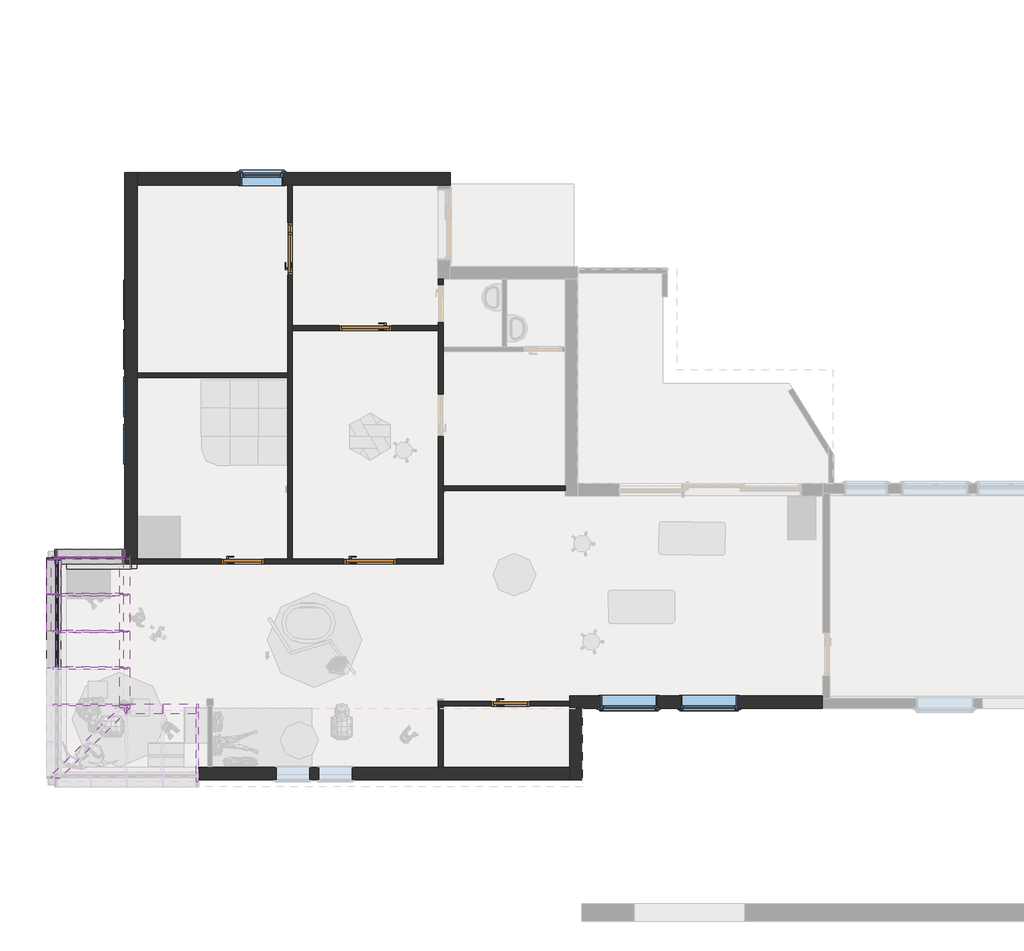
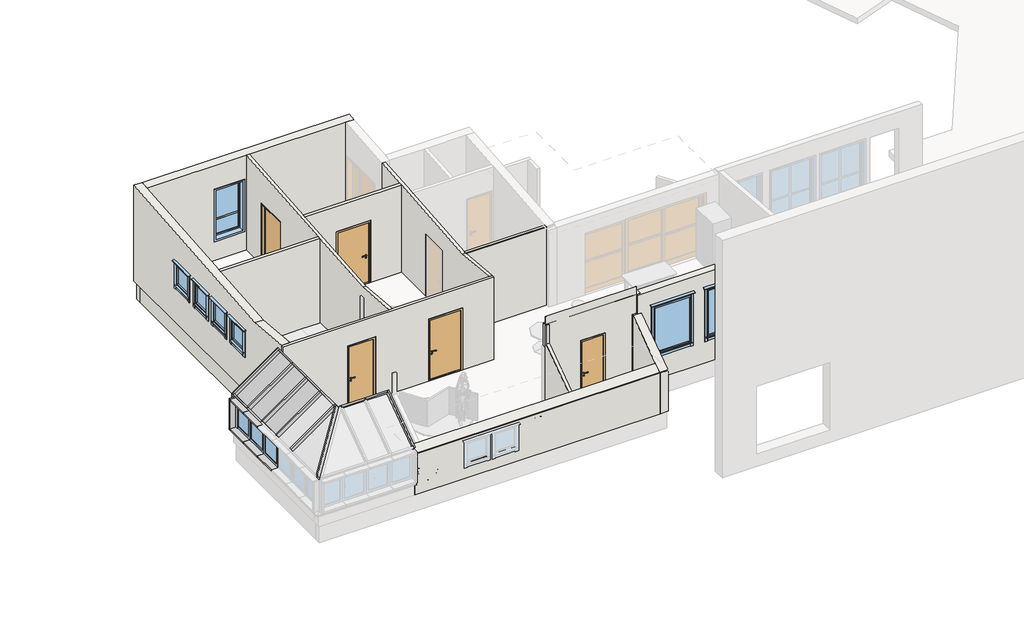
# One storey, part 5 of 13: 30 members, 18 walls, 10 windows, 6 doors, 5 plates.
"""IFC4 building model written with IfcOpenShell, lengths in millimetres."""

from ifc_helpers import new_model, si_unit, frame, origin, place, context, project, spatial, polyline, outline, extrude, faceted_brep, transform, mapped, element, save
from components import door_11x21_9736111e, door_11x21_133cae72, door_8x21_7557395c, door_9x21_ce0798c1, rectangular_mullion_50_x_100mm_ac3615d9, rectangular_mullion_50_x_100mm_32921d9c, rectangular_mullion_50_x_100mm_8a0d84bc, rectangular_mullion_50_x_100mm_9f614f47, rectangular_mullion_50_x_100mm_2c65ea40, rectangular_mullion_50_x_100mm_c186e3b1, rectangular_mullion_50_x_100mm_1764b891, rectangular_mullion_50_x_100mm_30790735, rectangular_mullion_50_x_100mm_e386ba94, rectangular_mullion_50_x_100mm_6f98f456, rectangular_mullion_50_x_100mm_044aa39e, rectangular_mullion_50_x_100mm_03660b20, rectangular_mullion_50_x_100mm_b91047e1, rectangular_mullion_50_x_100mm_4085f734, rectangular_mullion_50_x_100mm_a1e9fdaf, rectangular_mullion_50_x_150mm_2a46035e, rectangular_mullion_50_x_150mm_cfcca5c0, rectangular_mullion_50_x_150mm_88eebec3, system_panel_glazed_632911cd, system_panel_glazed_5ff88c7e, system_panel_glazed_722d5f76, window_12x16_fk_ab6c21ab, window_7x7_fk_a7d3f3a8, window_9x17_fks_for_200_vegg_c0b3abc5, curtain_wall_awning_curtain_wall_awning_fc9573cd, curtain_wall_awning_curtain_wall_awning_5f5da433

model = new_model("IFC4")

# Units and contexts
model_context = context("Model", 3, world=origin())
ifc_project = project(units=[si_unit("LENGTHUNIT", "METRE", prefix="MILLI")], contexts=[model_context])

# Site, building, storey
site = spatial("IfcSite", under=ifc_project)
building = spatial("IfcBuilding", under=site)
storey = spatial("IfcBuildingStorey", under=building, Name="1.0 første etg hovedbygg", Elevation=2500.0)

# Doors
placement = place(None, origin())
door_11x21_shape = door_11x21_9736111e(model_context)
element("IfcDoor", 1, ObjectType="Innerdør Slett (Diplomat) : 11x21", at=placement, inside=storey, context=model_context, shape_type="MappedRepresentation", body=[
    mapped(door_11x21_shape, transform((-8214.7041187, 7150.0, 2500.0), x_axis=(-1.0, 0.0, 0.0), y_axis=(0.0, -1.0, 0.0), z_axis=(0.0, 0.0, 1.0))),
])
element("IfcDoor", 2, ObjectType="Innerdør Slett (Diplomat) : 11x21", at=placement, inside=storey, context=model_context, shape_type="MappedRepresentation", body=[
    mapped(door_11x21_shape, transform((-9968.0837517, 13834.3935939, 2500.0), x_axis=(0.0, -1.0, 0.0), y_axis=(1.0, 0.0, 0.0), z_axis=(0.0, 0.0, 1.0))),
])
door_11x21_2_shape = door_11x21_133cae72(model_context)
element("IfcDoor", 3, ObjectType="Innerdør Slett (Diplomat) : 11x21", at=placement, inside=storey, context=model_context, shape_type="MappedRepresentation", body=[
    mapped(door_11x21_2_shape, transform((-8421.4633848, 12100.0, 2500.0), x_axis=(1.0, 0.0, 0.0), y_axis=(0.0, 1.0, 0.0), z_axis=(0.0, 0.0, 1.0))),
])
door_8x21_shape = door_8x21_7557395c(model_context)
element("IfcDoor", 4, ObjectType="Innerdør Slett (Diplomat) : 8x21", at=placement, inside=storey, context=model_context, shape_type="MappedRepresentation", body=[
    mapped(door_8x21_shape, transform((-5238.7041187, 4130.0, 2500.0), x_axis=(-1.0, 0.0, 0.0), y_axis=(0.0, -1.0, 0.0), z_axis=(0.0, 0.0, 1.0))),
])
door_9x21_shape = door_9x21_ce0798c1(model_context)
element("IfcDoor", 5, ObjectType="Innerdør Slett (Diplomat) : 9x21", at=placement, inside=storey, context=model_context, shape_type="MappedRepresentation", body=[
    mapped(door_9x21_shape, transform((-10914.7041187, 7150.0, 2500.0), x_axis=(-1.0, 0.0, 0.0), y_axis=(0.0, -1.0, 0.0), z_axis=(0.0, 0.0, 1.0))),
])
element("IfcDoor", 6, ObjectType="Innerdør Slett (Diplomat) : 9x21", at=placement, inside=storey, context=model_context, shape_type="MappedRepresentation", body=[
    mapped(door_9x21_shape, transform((-9968.0837517, 13734.3935939, 2500.0), x_axis=(0.0, -1.0, 0.0), y_axis=(1.0, 0.0, 0.0), z_axis=(0.0, 0.0, 1.0))),
])

# Members
rectangular_mullion_50_x_100mm_shape = rectangular_mullion_50_x_100mm_ac3615d9(model_context)
element("IfcMember", 7, ObjectType="Rectangular Mullion : 50 x 100mm", at=placement, inside=storey, context=model_context, shape_type="MappedRepresentation", body=[
    mapped(rectangular_mullion_50_x_100mm_shape, transform((-13468.0837517, 7225.0013961, 5089.8298468), x_axis=(1.0, 0.0, 0.0), y_axis=(0.0, 1.0, 0.0), z_axis=(0.0, 0.0, 1.0))),
])
rectangular_mullion_50_x_100mm_2_shape = rectangular_mullion_50_x_100mm_32921d9c(model_context)
element("IfcMember", 8, ObjectType="Rectangular Mullion : 50 x 100mm", at=placement, inside=storey, context=model_context, shape_type="MappedRepresentation", body=[
    mapped(rectangular_mullion_50_x_100mm_2_shape, transform((-14953.1146748, 7225.0013961, 4050.0), x_axis=(0.0, 1.0, 0.0), y_axis=(-1.0, 0.0, 0.0), z_axis=(0.0, 0.0, 1.0))),
])
rectangular_mullion_50_x_100mm_3_shape = rectangular_mullion_50_x_100mm_8a0d84bc(model_context)
element("IfcMember", 9, ObjectType="Rectangular Mullion : 50 x 100mm", at=placement, inside=storey, context=model_context, shape_type="MappedRepresentation", body=[
    mapped(rectangular_mullion_50_x_100mm_3_shape, transform((-13468.0837517, 7225.0013961, 3980.0), x_axis=(1.0, 0.0, 0.0), y_axis=(0.0, 1.0, 0.0), z_axis=(0.0, 0.0, 1.0))),
])
element("IfcMember", 10, ObjectType="Rectangular Mullion : 50 x 100mm", at=placement, inside=storey, context=model_context, shape_type="MappedRepresentation", body=[
    mapped(rectangular_mullion_50_x_100mm_3_shape, transform((-14953.1146748, 7225.0013961, 3000.0), x_axis=(-1.0, 0.0, 0.0), y_axis=(0.0, 1.0, 0.0), z_axis=(0.0, 0.0, -1.0))),
])
rectangular_mullion_50_x_100mm_4_shape = rectangular_mullion_50_x_100mm_9f614f47(model_context)
element("IfcMember", 11, ObjectType="Rectangular Mullion : 50 x 100mm", at=placement, inside=storey, context=model_context, shape_type="MappedRepresentation", body=[
    mapped(rectangular_mullion_50_x_100mm_4_shape, transform((-14953.1146748, 7225.0013961, 3980.0), x_axis=(-1.0, 0.0, 0.0), y_axis=(0.0, 1.0, 0.0), z_axis=(0.0, 0.0, -1.0))),
])
rectangular_mullion_50_x_100mm_5_shape = rectangular_mullion_50_x_100mm_2c65ea40(model_context)
element("IfcMember", 12, ObjectType="Rectangular Mullion : 50 x 100mm", at=placement, inside=storey, context=model_context, shape_type="MappedRepresentation", body=[
    mapped(rectangular_mullion_50_x_100mm_5_shape, transform((-14903.1146748, 7225.0013961, 3980.0), x_axis=(0.0, 0.0, 1.0), y_axis=(0.0, 1.0, 0.0), z_axis=(-1.0, 0.0, 0.0))),
])
rectangular_mullion_50_x_100mm_6_shape = rectangular_mullion_50_x_100mm_c186e3b1(model_context)
element("IfcMember", 13, ObjectType="Rectangular Mullion : 50 x 100mm", at=placement, inside=storey, context=model_context, shape_type="MappedRepresentation", body=[
    mapped(rectangular_mullion_50_x_100mm_6_shape, transform((-13509.0413539, 4105.0013961, 5061.151025), x_axis=(0.0, -1.0, 0.0), y_axis=(0.573576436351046, 0.0, -0.8191520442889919), z_axis=(0.8191520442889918, 0.0, 0.5735764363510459))),
])
element("IfcMember", 14, ObjectType="Rectangular Mullion : 50 x 100mm", at=placement, inside=storey, context=model_context, shape_type="MappedRepresentation", body=[
    mapped(rectangular_mullion_50_x_100mm_6_shape, transform((-13509.0413539, 4885.0013961, 5061.151025), x_axis=(0.0, -1.0, 0.0), y_axis=(0.5735764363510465, 0.0, -0.8191520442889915), z_axis=(0.8191520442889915, 0.0, 0.5735764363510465))),
])
element("IfcMember", 15, ObjectType="Rectangular Mullion : 50 x 100mm", at=placement, inside=storey, context=model_context, shape_type="MappedRepresentation", body=[
    mapped(rectangular_mullion_50_x_100mm_6_shape, transform((-13509.0413539, 5665.0013961, 5061.151025), x_axis=(0.0, -1.0, 0.0), y_axis=(0.573576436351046, 0.0, -0.8191520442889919), z_axis=(0.8191520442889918, 0.0, 0.5735764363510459))),
])
element("IfcMember", 16, ObjectType="Rectangular Mullion : 50 x 100mm", at=placement, inside=storey, context=model_context, shape_type="MappedRepresentation", body=[
    mapped(rectangular_mullion_50_x_100mm_6_shape, transform((-13509.0413539, 6445.0013961, 5061.151025), x_axis=(0.0, -1.0, 0.0), y_axis=(0.5735764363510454, 0.0, -0.8191520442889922), z_axis=(0.8191520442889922, 0.0, 0.5735764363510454))),
])
rectangular_mullion_50_x_100mm_7_shape = rectangular_mullion_50_x_100mm_1764b891(model_context)
element("IfcMember", 17, ObjectType="Rectangular Mullion : 50 x 100mm", at=placement, inside=storey, context=model_context, shape_type="MappedRepresentation", body=[
    mapped(rectangular_mullion_50_x_100mm_7_shape, transform((-14953.1146748, 6445.0013961, 4050.0), x_axis=(-0.819152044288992, 0.0, -0.5735764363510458), y_axis=(0.5735764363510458, 0.0, -0.819152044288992), z_axis=(0.0, -1.0, 0.0))),
])
element("IfcMember", 18, ObjectType="Rectangular Mullion : 50 x 100mm", at=placement, inside=storey, context=model_context, shape_type="MappedRepresentation", body=[
    mapped(rectangular_mullion_50_x_100mm_7_shape, transform((-13468.0837517, 7200.0013961, 5089.8298468), x_axis=(0.819152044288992, 0.0, 0.5735764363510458), y_axis=(0.5735764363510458, 0.0, -0.819152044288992), z_axis=(0.0, 1.0, 0.0))),
])
rectangular_mullion_50_x_100mm_8_shape = rectangular_mullion_50_x_100mm_30790735(model_context)
element("IfcMember", 19, ObjectType="Rectangular Mullion : 50 x 100mm", at=placement, inside=storey, context=model_context, shape_type="MappedRepresentation", body=[
    mapped(rectangular_mullion_50_x_100mm_8_shape, transform((-12667.8646748, 4030.0, 5089.8072167), x_axis=(0.0, 0.8191520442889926, 0.573576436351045), y_axis=(0.0, 0.573576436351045, -0.8191520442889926), z_axis=(-1.0, 0.0, 0.0))),
])
rectangular_mullion_50_x_100mm_9_shape = rectangular_mullion_50_x_100mm_e386ba94(model_context)
element("IfcMember", 20, ObjectType="Rectangular Mullion : 50 x 100mm", at=placement, inside=storey, context=model_context, shape_type="MappedRepresentation", body=[
    mapped(rectangular_mullion_50_x_100mm_9_shape, transform((-14953.1146748, 7250.0013961, 4050.0), x_axis=(0.0, 1.0, 0.0), y_axis=(0.573576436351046, 0.0, -0.8191520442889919), z_axis=(-0.8191520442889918, 0.0, -0.5735764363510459))),
])
rectangular_mullion_50_x_100mm_10_shape = rectangular_mullion_50_x_100mm_6f98f456(model_context)
element("IfcMember", 21, ObjectType="Rectangular Mullion : 50 x 100mm", at=placement, inside=storey, context=model_context, shape_type="MappedRepresentation", body=[
    mapped(rectangular_mullion_50_x_100mm_10_shape, transform((-14953.1146748, 5665.0013961, 4050.0), x_axis=(-0.819152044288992, 0.0, -0.5735764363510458), y_axis=(0.5735764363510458, 0.0, -0.819152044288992), z_axis=(0.0, -1.0, 0.0))),
])
element("IfcMember", 22, ObjectType="Rectangular Mullion : 50 x 100mm", at=placement, inside=storey, context=model_context, shape_type="MappedRepresentation", body=[
    mapped(rectangular_mullion_50_x_100mm_10_shape, transform((-13468.0837517, 5665.0013961, 5089.8298468), x_axis=(0.819152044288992, 0.0, 0.5735764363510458), y_axis=(0.5735764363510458, 0.0, -0.819152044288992), z_axis=(0.0, 1.0, 0.0))),
])
element("IfcMember", 23, ObjectType="Rectangular Mullion : 50 x 100mm", at=placement, inside=storey, context=model_context, shape_type="MappedRepresentation", body=[
    mapped(rectangular_mullion_50_x_100mm_10_shape, transform((-13468.0837517, 4885.0013961, 5089.8298468), x_axis=(0.819152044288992, 0.0, 0.5735764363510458), y_axis=(0.5735764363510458, 0.0, -0.819152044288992), z_axis=(0.0, 1.0, 0.0))),
])
element("IfcMember", 24, ObjectType="Rectangular Mullion : 50 x 100mm", at=placement, inside=storey, context=model_context, shape_type="MappedRepresentation", body=[
    mapped(rectangular_mullion_50_x_100mm_10_shape, transform((-13468.0837517, 6445.0013961, 5089.8298468), x_axis=(0.819152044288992, 0.0, 0.5735764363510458), y_axis=(0.5735764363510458, 0.0, -0.819152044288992), z_axis=(0.0, 1.0, 0.0))),
])
rectangular_mullion_50_x_100mm_11_shape = rectangular_mullion_50_x_100mm_044aa39e(model_context)
element("IfcMember", 25, ObjectType="Rectangular Mullion : 50 x 100mm", at=placement, inside=storey, context=model_context, shape_type="MappedRepresentation", body=[
    mapped(rectangular_mullion_50_x_100mm_11_shape, transform((-13468.0837517, 4030.0323192, 5089.8298468), x_axis=(0.5190862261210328, -0.7735893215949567, 0.36346808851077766), y_axis=(0.5735764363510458, 0.0, -0.819152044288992), z_axis=(0.6336872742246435, 0.6336872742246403, 0.443712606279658))),
])
rectangular_mullion_50_x_100mm_12_shape = rectangular_mullion_50_x_100mm_03660b20(model_context)
element("IfcMember", 26, ObjectType="Rectangular Mullion : 50 x 100mm", at=placement, inside=storey, context=model_context, shape_type="MappedRepresentation", body=[
    mapped(rectangular_mullion_50_x_100mm_12_shape, transform((-13468.0837517, 4105.0013961, 5089.8298468), x_axis=(0.819152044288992, 0.0, 0.5735764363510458), y_axis=(0.5735764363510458, 0.0, -0.819152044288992), z_axis=(0.0, 1.0, 0.0))),
])
rectangular_mullion_50_x_100mm_13_shape = rectangular_mullion_50_x_100mm_b91047e1(model_context)
element("IfcMember", 27, ObjectType="Rectangular Mullion : 50 x 100mm", at=placement, inside=storey, context=model_context, shape_type="MappedRepresentation", body=[
    mapped(rectangular_mullion_50_x_100mm_13_shape, transform((-11907.7908366, 4030.0, 5089.8072167), x_axis=(1.0, 0.0, 0.0), y_axis=(0.0, 0.573576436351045, -0.8191520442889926), z_axis=(0.0, 0.8191520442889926, 0.573576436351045))),
])
rectangular_mullion_50_x_100mm_14_shape = rectangular_mullion_50_x_100mm_4085f734(model_context)
element("IfcMember", 28, ObjectType="Rectangular Mullion : 50 x 100mm", at=placement, inside=storey, context=model_context, shape_type="MappedRepresentation", body=[
    mapped(rectangular_mullion_50_x_100mm_14_shape, transform((-13468.0837517, 4030.0, 5089.8072167), x_axis=(0.0, 0.8191520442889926, 0.573576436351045), y_axis=(0.0, 0.573576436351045, -0.8191520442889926), z_axis=(-1.0, 0.0, 0.0))),
])
rectangular_mullion_50_x_100mm_15_shape = rectangular_mullion_50_x_100mm_a1e9fdaf(model_context)
element("IfcMember", 29, ObjectType="Rectangular Mullion : 50 x 100mm", at=placement, inside=storey, context=model_context, shape_type="MappedRepresentation", body=[
    mapped(rectangular_mullion_50_x_100mm_15_shape, transform((-13429.6146748, 4030.0, 5089.8072167), x_axis=(0.0, 0.8191520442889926, 0.573576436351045), y_axis=(0.0, 0.573576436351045, -0.8191520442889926), z_axis=(-1.0, 0.0, 0.0))),
])
rectangular_mullion_50_x_150mm_shape = rectangular_mullion_50_x_150mm_2a46035e(model_context)
element("IfcMember", 30, ObjectType="Rectangular Mullion : 50 x 150mm", at=placement, inside=storey, context=model_context, shape_type="MappedRepresentation", body=[
    mapped(rectangular_mullion_50_x_150mm_shape, transform((-14953.1146748, 7225.0013961, 4050.0), x_axis=(-0.5735764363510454, 0.0, 0.8191520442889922), y_axis=(0.0, 1.0, 0.0), z_axis=(-0.8191520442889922, 0.0, -0.5735764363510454))),
])
rectangular_mullion_50_x_150mm_2_shape = rectangular_mullion_50_x_150mm_cfcca5c0(model_context)
element("IfcMember", 31, ObjectType="Rectangular Mullion : 50 x 150mm", at=placement, inside=storey, context=model_context, shape_type="MappedRepresentation", body=[
    mapped(rectangular_mullion_50_x_150mm_2_shape, transform((-13518.0837517, 7225.0013961, 3000.0), x_axis=(0.0, 0.0, -1.0), y_axis=(0.0, 1.0, 0.0), z_axis=(1.0, 0.0, 0.0))),
])
rectangular_mullion_50_x_150mm_3_shape = rectangular_mullion_50_x_150mm_88eebec3(model_context)
element("IfcMember", 32, ObjectType="Rectangular Mullion : 50 x 150mm", at=placement, inside=storey, context=model_context, shape_type="MappedRepresentation", body=[
    mapped(rectangular_mullion_50_x_150mm_3_shape, transform((-14953.1146748, 7175.0013961, 3000.0), x_axis=(0.0, 0.0, -1.0), y_axis=(-1.0, 0.0, 0.0), z_axis=(0.0, 1.0, 0.0))),
])
element("IfcMember", 33, ObjectType="Rectangular Mullion : 50 x 150mm", at=placement, inside=storey, context=model_context, shape_type="MappedRepresentation", body=[
    mapped(rectangular_mullion_50_x_150mm_3_shape, transform((-14953.1146748, 6445.0013961, 4050.0), x_axis=(0.0, 0.0, 1.0), y_axis=(-1.0, 0.0, 0.0), z_axis=(0.0, -1.0, 0.0))),
])
element("IfcMember", 34, ObjectType="Rectangular Mullion : 50 x 150mm", at=placement, inside=storey, context=model_context, shape_type="MappedRepresentation", body=[
    mapped(rectangular_mullion_50_x_100mm_10_shape, transform((-14953.1146748, 6445.0013961, 3000.0), x_axis=(0.0, 0.0, -1.0), y_axis=(-1.0, 0.0, 0.0), z_axis=(0.0, 1.0, 0.0))),
])
element("IfcMember", 35, ObjectType="Rectangular Mullion : 50 x 150mm", at=placement, inside=storey, context=model_context, shape_type="MappedRepresentation", body=[
    mapped(rectangular_mullion_50_x_100mm_10_shape, transform((-14953.1146748, 5665.0013961, 3000.0), x_axis=(0.0, 0.0, -1.0), y_axis=(-1.0, 0.0, 0.0), z_axis=(0.0, 1.0, 0.0))),
])
element("IfcMember", 36, ObjectType="Rectangular Mullion : 50 x 150mm", at=placement, inside=storey, context=model_context, shape_type="MappedRepresentation", body=[
    mapped(rectangular_mullion_50_x_100mm_10_shape, transform((-14953.1146748, 5665.0013961, 4050.0), x_axis=(0.0, 0.0, 1.0), y_axis=(-1.0, 0.0, 0.0), z_axis=(0.0, -1.0, 0.0))),
])

# Plates
system_panel_glazed_shape = system_panel_glazed_632911cd(model_context)
element("IfcPlate", 37, ObjectType="System Panel : Glazed", at=placement, inside=storey, context=model_context, shape_type="MappedRepresentation", body=[
    mapped(system_panel_glazed_shape, transform((-14912.1570726, 6835.0013961, 4078.6788218), x_axis=(0.0, -1.0, 0.0), y_axis=(0.5735764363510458, 0.0, -0.819152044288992), z_axis=(0.819152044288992, 0.0, 0.5735764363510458))),
])
element("IfcPlate", 38, ObjectType="System Panel : Glazed", at=placement, inside=storey, context=model_context, shape_type="MappedRepresentation", body=[
    mapped(system_panel_glazed_shape, transform((-14912.1570726, 6055.0013961, 4078.6788218), x_axis=(0.0, -1.0, 0.0), y_axis=(0.5735764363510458, 0.0, -0.819152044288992), z_axis=(0.819152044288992, 0.0, 0.5735764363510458))),
])
element("IfcPlate", 39, ObjectType="System Panel : Glazed", at=placement, inside=storey, context=model_context, shape_type="MappedRepresentation", body=[
    mapped(system_panel_glazed_shape, transform((-14912.1570726, 5275.0013961, 4078.6788218), x_axis=(0.0, -1.0, 0.0), y_axis=(0.5735764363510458, 0.0, -0.819152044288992), z_axis=(0.819152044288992, 0.0, 0.5735764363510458))),
])
system_panel_glazed_2_shape = system_panel_glazed_5ff88c7e(model_context)
element("IfcPlate", 40, ObjectType="System Panel : Glazed", at=placement, inside=storey, context=model_context, shape_type="MappedRepresentation", body=[
    mapped(system_panel_glazed_2_shape, transform((-14210.5992133, 7225.0013961, 3050.0), x_axis=(-1.0, 0.0, 0.0), y_axis=(0.0, -1.0, 0.0), z_axis=(0.0, 0.0, 1.0))),
])
system_panel_glazed_3_shape = system_panel_glazed_722d5f76(model_context)
element("IfcPlate", 41, ObjectType="System Panel : Glazed", at=placement, inside=storey, context=model_context, shape_type="MappedRepresentation", body=[
    mapped(system_panel_glazed_3_shape, transform((-14210.5992133, 7225.0013961, 4005.0), x_axis=(-1.0, 0.0, 0.0), y_axis=(0.0, -1.0, 0.0), z_axis=(0.0, 0.0, 1.0))),
])

# Walls
element("IfcWall", 42, ObjectType="Yttervegg Tre 198 Isolert Liggende Kledning", at=placement, inside=storey, context=model_context, shape_type="Brep", body=[
    faceted_brep([(1319.9162483, 4294.0, 2500.0), (-4032.0837517, 4294.0, 2500.0), (-4032.0837517, 4294.0, 4917.3124052), (-3900.0837517, 4294.0, 4917.3124052), (-3900.0837517, 4294.0, 5538.8972451), (-3768.0837517, 4294.0, 5538.8972451), (-3768.0837517, 4294.0, 5526.3744332), (1319.9162483, 4294.0, 5526.3744332), (-3385.0837517, 4294.0, 4990.0), (-3385.0837517, 4294.0, 3380.0), (-2175.0837517, 4294.0, 3380.0), (-2175.0837517, 4294.0, 4990.0), (-1685.0837517, 4294.0, 4990.0), (-1685.0837517, 4294.0, 3380.0), (-475.0837517, 4294.0, 3380.0), (-475.0837517, 4294.0, 4990.0), (1319.9162483, 4030.0, 2500.0), (1319.9162483, 4030.0, 5549.4714403), (-3900.0837517, 4030.0, 5549.4714403), (-3900.0837517, 4030.0, 4917.3124052), (-4032.0837517, 4030.0, 4917.3124052), (-4032.0837517, 4030.0, 2500.0), (-3768.0837517, 4030.0, 2500.0), (-3385.0837517, 4030.0, 3380.0), (-3385.0837517, 4030.0, 4990.0), (-2175.0837517, 4030.0, 4990.0), (-2175.0837517, 4030.0, 3380.0), (-1685.0837517, 4030.0, 3380.0), (-1685.0837517, 4030.0, 4990.0), (-475.0837517, 4030.0, 4990.0), (-475.0837517, 4030.0, 3380.0), (1319.9162483, 4244.0, 5530.7488664), (1319.9162483, 4085.3896653, 5544.6254726), (1319.9162483, 4084.0, 2500.0), (1319.9162483, 4244.0, 2500.0), (-4032.0837517, 4084.0, 2500.0), (-4032.0837517, 4180.0, 2500.0), (-4032.0837517, 4080.0, 2500.0), (-3768.0837517, 4085.3896653, 5544.6254726), (-3768.0837517, 4085.3896653, 5557.1482845), (-3900.0837517, 4085.3896653, 5557.1482845), (-3900.0837517, 4085.3896653, 5544.6254726), (-3900.0837517, 4180.0, 5548.8709527), (-3900.0837517, 4080.0, 4917.3124052), (-3900.0837517, 4180.0, 4917.3124052), (-4032.0837517, 4180.0, 4917.3124052), (-4032.0837517, 4080.0, 4917.3124052)], [[[0, 1, 2, 3, 4, 5, 6, 7], [8, 9, 10, 11], [12, 13, 14, 15]], [[16, 17, 18, 19, 20, 21, 22], [23, 24, 25, 26], [27, 28, 29, 30]], [[0, 7, 31, 32, 17, 16, 33, 34]], [[1, 0, 34, 33, 35, 36]], [[33, 16, 22, 21, 37, 35]], [[38, 39, 40, 41]], [[39, 38, 6, 5]], [[18, 17, 32, 31, 7, 6, 38, 41]], [[5, 4, 42, 40, 39]], [[19, 43, 44, 3, 2, 45, 46, 20]], [[18, 41, 40, 42, 4, 3, 44, 43, 19]], [[1, 36, 35, 37, 21, 20, 46, 45, 2]], [[23, 9, 8, 24]], [[24, 8, 11, 25]], [[25, 11, 10, 26]], [[9, 23, 26, 10]], [[27, 13, 12, 28]], [[28, 12, 15, 29]], [[29, 15, 14, 30]], [[13, 27, 30, 14]]]),
])
element("IfcWall", 43, ObjectType="Yttervegg Tre 198 Isolert Liggende Kledning", at=placement, inside=storey, context=model_context, shape_type="Brep", body=[
    faceted_brep([(-4032.0837517, 4030.0, 2500.0), (-4032.0837517, 2784.0013961, 2500.0), (-4032.0837517, 2520.0013961, 2500.0), (-4032.0837517, 2520.0013961, 3882.1882172), (-4032.0837517, 2551.6894542, 3882.1882172), (-4032.0837517, 2784.0013961, 4044.8547901), (-4032.0837517, 4030.0, 4917.3124052), (-3768.0837517, 4030.0, 2500.0), (-3768.0837517, 4030.0, 4917.3124052), (-3768.0837517, 2551.6894542, 3882.1882172), (-3768.0837517, 2520.0013961, 3882.1882172), (-3768.0837517, 2520.0013961, 2500.0), (-3822.0837517, 4030.0, 2500.0), (-3822.0837517, 2520.0013961, 2500.0)], [[[0, 1, 2, 3, 4, 5, 6]], [[7, 8, 9, 10, 11]], [[2, 1, 0, 12, 13]], [[0, 6, 8, 7, 12]], [[12, 7, 11, 13]], [[3, 2, 13, 11, 10]], [[6, 5, 4, 9, 8]], [[4, 3, 10, 9]]]),
])
element("IfcWall", 44, ObjectType="Yttervegg Tre 198 Isolert Liggende Kledning", at=placement, inside=storey, context=model_context, shape_type="Brep", body=[
    faceted_brep([(-4032.0837517, 2784.0013961, 2500.0), (-6718.0837517, 2784.0013961, 2500.0), (-6818.0837517, 2784.0013961, 2500.0), (-11611.5779852, 2784.0013961, 2500.0), (-11711.5779852, 2784.0013961, 2500.0), (-11906.1146748, 2784.0013961, 2500.0), (-11906.1146748, 2784.0013961, 3000.0), (-11906.1146748, 2784.0013961, 4044.8547901), (-11711.5779852, 2784.0013961, 4044.8547901), (-11611.5779852, 2784.0013961, 4044.8547901), (-6818.0837517, 2784.0013961, 4044.8547901), (-6718.0837517, 2784.0013961, 4044.8547901), (-4032.0837517, 2784.0013961, 4044.8547901), (-9551.1146748, 2784.0013961, 3000.0), (-9551.1146748, 2784.0013961, 3710.0), (-10261.1146748, 2784.0013961, 3710.0), (-10261.1146748, 2784.0013961, 3000.0), (-8651.1146748, 2784.0013961, 3000.0), (-8651.1146748, 2784.0013961, 3710.0), (-9361.1146748, 2784.0013961, 3710.0), (-9361.1146748, 2784.0013961, 3000.0), (-11906.1146748, 2520.0013961, 3882.1882172), (-11906.1146748, 2520.0013961, 3000.0), (-11906.1146748, 2520.0013961, 2500.0), (-4032.0837517, 2520.0013961, 2500.0), (-4032.0837517, 2520.0013961, 3882.1882172), (-9551.1146748, 2520.0013961, 3710.0), (-9551.1146748, 2520.0013961, 3000.0), (-10261.1146748, 2520.0013961, 3000.0), (-10261.1146748, 2520.0013961, 3710.0), (-8651.1146748, 2520.0013961, 3710.0), (-8651.1146748, 2520.0013961, 3000.0), (-9361.1146748, 2520.0013961, 3000.0), (-9361.1146748, 2520.0013961, 3710.0), (-11906.1146748, 2574.0013961, 2500.0), (-11906.1146748, 2551.6894542, 3882.1882172), (-4032.0837517, 2574.0013961, 2500.0), (-4032.0837517, 2551.6894542, 3882.1882172)], [[[0, 1, 2, 3, 4, 5, 6, 7, 8, 9, 10, 11, 12], [13, 14, 15, 16], [17, 18, 19, 20]], [[21, 22, 23, 24, 25], [26, 27, 28, 29], [30, 31, 32, 33]], [[7, 6, 5, 34, 23, 22, 21, 35]], [[5, 4, 3, 2, 1, 0, 36, 34]], [[0, 12, 37, 25, 24, 36]], [[24, 23, 34, 36]], [[12, 11, 10, 9, 8, 7, 35, 37]], [[21, 25, 37, 35]], [[13, 27, 26, 14]], [[15, 29, 28, 16]], [[27, 13, 16, 28]], [[17, 31, 30, 18]], [[32, 20, 19, 33]], [[31, 17, 20, 32]], [[29, 15, 14, 26]], [[33, 19, 18, 30]]]),
])
element("IfcWall", 45, ObjectType="Yttervegg Tre 198 Isolert Liggende Kledning", at=placement, inside=storey, context=model_context, shape_type="Brep", body=[
    faceted_brep([(-14714.1146748, 6986.0013961, 2500.0), (-13336.0837517, 6986.0013961, 2500.0), (-13336.0837517, 6986.0013961, 3000.0), (-14714.1146748, 6986.0013961, 3000.0), (-13336.0837517, 7250.0013961, 3000.0), (-13336.0837517, 7250.0013961, 2500.0), (-13468.0837517, 7250.0013961, 2500.0), (-14714.1146748, 7250.0013961, 2500.0), (-14714.1146748, 7250.0013961, 2995.0), (-14714.1146748, 7250.0013961, 3000.0), (-13468.0837517, 7250.0013961, 3000.0), (-13336.0837517, 7100.0, 2500.0), (-13336.0837517, 7196.0013961, 2500.0), (-13336.0837517, 7200.0, 2500.0), (-13336.0837517, 7200.0, 3000.0), (-13336.0837517, 7100.0, 3000.0), (-14714.1146748, 7196.0013961, 2500.0)], [[[0, 1, 2, 3]], [[4, 5, 6, 7, 8, 9, 10]], [[2, 1, 11, 12, 13, 5, 4, 14, 15]], [[3, 2, 15, 14, 4, 10, 9]], [[1, 0, 16, 12, 11]], [[0, 3, 9, 8, 7, 16]], [[7, 6, 5, 13, 12, 16]]]),
])
element("IfcWall", 46, ObjectType="Yttervegg Tre 198 Isolert Liggende Kledning", at=placement, inside=storey, context=model_context, shape_type="Brep", body=[
    faceted_brep([(-13204.0837517, 15136.0139609, 2500.0), (-10018.0837517, 15136.0139609, 2500.0), (-9918.0837517, 15136.0139609, 2500.0), (-6832.0837517, 15136.0139609, 2500.0), (-6568.0837517, 15136.0139609, 2500.0), (-6568.0837517, 15136.0139609, 5719.8280331), (-6832.0837517, 15136.0139609, 5719.8280331), (-9918.0837517, 15136.0139609, 5719.8280331), (-10018.0837517, 15136.0139609, 5719.8280331), (-13204.0837517, 15136.0139609, 5719.8280331), (-11018.0865439, 15136.0139609, 3180.0), (-11018.0865439, 15136.0139609, 4890.0), (-10108.0865439, 15136.0139609, 4890.0), (-10108.0865439, 15136.0139609, 3180.0), (-6568.0837517, 15400.0139609, 2500.0), (-13204.0837517, 15400.0139609, 2500.0), (-13204.0837517, 15400.0139609, 5742.9250403), (-6568.0837517, 15400.0139609, 5742.9250403), (-11018.0865439, 15400.0139609, 4890.0), (-11018.0865439, 15400.0139609, 3180.0), (-10108.0865439, 15400.0139609, 3180.0), (-10108.0865439, 15400.0139609, 4890.0), (-13204.0837517, 15346.0139609, 2500.0), (-6568.0837517, 15346.0139609, 2500.0)], [[[0, 1, 2, 3, 4, 5, 6, 7, 8, 9], [10, 11, 12, 13]], [[14, 15, 16, 17], [18, 19, 20, 21]], [[4, 3, 2, 1, 0, 22, 23]], [[0, 9, 16, 15, 22]], [[15, 14, 23, 22]], [[5, 4, 23, 14, 17]], [[9, 8, 7, 6, 5, 17, 16]], [[10, 19, 18, 11]], [[11, 18, 21, 12]], [[12, 21, 20, 13]], [[19, 10, 13, 20]]]),
])
element("IfcWall", 47, ObjectType="Yttervegg Tre 198 Isolert Liggende Kledning", at=placement, inside=storey, context=model_context, shape_type="Brep", body=[
    faceted_brep([(-13204.0837517, 7200.0, 2500.0), (-13204.0837517, 11050.0, 2500.0), (-13204.0837517, 11150.0, 2500.0), (-13204.0837517, 15136.0139609, 2500.0), (-13204.0837517, 15400.0139609, 2500.0), (-13204.0837517, 15400.0139609, 5742.9250403), (-13204.0837517, 15136.0139609, 5719.8280331), (-13204.0837517, 11150.0, 5371.0969989), (-13204.0837517, 11050.0, 5362.3481326), (-13204.0837517, 8680.0, 5155.0), (-13204.0837517, 8680.0, 5155.1719669), (-13204.0837517, 7200.0, 5284.6551889), (-13204.0837517, 9278.2194556, 3800.0), (-13204.0837517, 9278.2194556, 4510.0), (-13204.0837517, 9988.2194556, 4510.0), (-13204.0837517, 9988.2194556, 3800.0), (-13204.0837517, 10288.2194556, 3800.0), (-13204.0837517, 10288.2194556, 4510.0), (-13204.0837517, 10998.2194556, 4510.0), (-13204.0837517, 10998.2194556, 3800.0), (-13204.0837517, 11298.2194556, 3800.0), (-13204.0837517, 11298.2194556, 4510.0), (-13204.0837517, 12008.2194556, 4510.0), (-13204.0837517, 12008.2194556, 3800.0), (-13204.0837517, 12341.2194556, 3800.0), (-13204.0837517, 12341.2194556, 4510.0), (-13204.0837517, 13051.2194556, 4510.0), (-13204.0837517, 13051.2194556, 3800.0), (-13468.0837517, 15400.0139609, 2500.0), (-13468.0837517, 7250.0013961, 2500.0), (-13468.0837517, 7250.0013961, 2995.0), (-13468.0837517, 7250.0013961, 3000.0), (-13468.0837517, 7200.0, 3000.0), (-13468.0837517, 7200.0, 5284.6551889), (-13468.0837517, 8680.0, 5155.1719669), (-13468.0837517, 8680.0, 5155.0), (-13468.0837517, 15400.0139609, 5742.9250403), (-13468.0837517, 9278.2194556, 4510.0), (-13468.0837517, 9278.2194556, 3800.0), (-13468.0837517, 9988.2194556, 3800.0), (-13468.0837517, 9988.2194556, 4510.0), (-13468.0837517, 10288.2194556, 4510.0), (-13468.0837517, 10288.2194556, 3800.0), (-13468.0837517, 10998.2194556, 3800.0), (-13468.0837517, 10998.2194556, 4510.0), (-13468.0837517, 11298.2194556, 4510.0), (-13468.0837517, 11298.2194556, 3800.0), (-13468.0837517, 12008.2194556, 3800.0), (-13468.0837517, 12008.2194556, 4510.0), (-13468.0837517, 12341.2194556, 4510.0), (-13468.0837517, 12341.2194556, 3800.0), (-13468.0837517, 13051.2194556, 3800.0), (-13468.0837517, 13051.2194556, 4510.0), (-13336.0837517, 7200.0, 2500.0), (-13336.0837517, 7250.0013961, 2500.0), (-13414.0837517, 7250.0013961, 2500.0), (-13414.0837517, 15400.0139609, 2500.0), (-13336.0837517, 7250.0013961, 3000.0), (-13336.0837517, 7200.0, 3000.0)], [[[0, 1, 2, 3, 4, 5, 6, 7, 8, 9, 10, 11], [12, 13, 14, 15], [16, 17, 18, 19], [20, 21, 22, 23], [24, 25, 26, 27]], [[28, 29, 30, 31, 32, 33, 34, 35, 36], [37, 38, 39, 40], [41, 42, 43, 44], [45, 46, 47, 48], [49, 50, 51, 52]], [[4, 3, 2, 1, 0, 53, 54, 55, 56]], [[5, 4, 56, 28, 36]], [[10, 9, 35, 34]], [[9, 8, 7, 6, 5, 36, 35]], [[32, 31, 57, 58]], [[58, 57, 54, 53]], [[57, 31, 30, 29, 55, 54]], [[10, 34, 33, 11]], [[29, 28, 56, 55]], [[53, 0, 11, 33, 32, 58]], [[12, 38, 37, 13]], [[13, 37, 40, 14]], [[14, 40, 39, 15]], [[38, 12, 15, 39]], [[16, 42, 41, 17]], [[17, 41, 44, 18]], [[18, 44, 43, 19]], [[42, 16, 19, 43]], [[20, 46, 45, 21]], [[21, 45, 48, 22]], [[22, 48, 47, 23]], [[46, 20, 23, 47]], [[24, 50, 49, 25]], [[25, 49, 52, 26]], [[26, 52, 51, 27]], [[50, 24, 27, 51]]]),
])
element("IfcWall", 48, ObjectType="Generic - 100mm - Filled", at=placement, inside=storey, context=model_context, shape_type="Brep", body=[
    faceted_brep([(-10018.0837517, 15136.0139609, 5719.8280331), (-10018.0837517, 15136.0139609, 2500.0), (-10018.0837517, 14336.0139609, 2500.0), (-10018.0837517, 14336.0139609, 4615.0), (-10018.0837517, 14136.0139609, 4615.0), (-10018.0837517, 13226.0139609, 4615.0), (-10018.0837517, 13226.0139609, 2500.0), (-10018.0837517, 11150.0, 2500.0), (-10018.0837517, 11050.0, 2500.0), (-10018.0837517, 8750.0, 2500.0), (-10018.0837517, 8610.0, 2500.0), (-10018.0837517, 7200.0, 2500.0), (-10018.0837517, 7200.0, 5284.6551889), (-10018.0837517, 8680.0, 5155.1719669), (-10018.0837517, 8680.0, 5155.0), (-10018.0837517, 11050.0, 5362.3481326), (-10018.0837517, 11150.0, 5371.0969989), (-9918.0837517, 15136.0139609, 2500.0), (-9918.0837517, 15136.0139609, 5719.8280331), (-9918.0837517, 12150.0, 5458.5856624), (-9918.0837517, 12050.0, 5449.8367961), (-9918.0837517, 8680.0, 5155.0), (-9918.0837517, 8680.0, 5155.1719669), (-9918.0837517, 7200.0, 5284.6551889), (-9918.0837517, 7200.0, 2500.0), (-9918.0837517, 12050.0, 2500.0), (-9918.0837517, 12150.0, 2500.0), (-9918.0837517, 13226.0139609, 2500.0), (-9918.0837517, 13226.0139609, 4615.0), (-9918.0837517, 14136.0139609, 4615.0), (-9918.0837517, 14336.0139609, 4615.0), (-9918.0837517, 14336.0139609, 2500.0)], [[[0, 1, 2, 3, 4, 5, 6, 7, 8, 9, 10, 11, 12, 13, 14, 15, 16]], [[17, 18, 19, 20, 21, 22, 23, 24, 25, 26, 27, 28, 29, 30, 31]], [[1, 17, 31, 2]], [[24, 11, 10, 9, 8, 7, 6, 27, 26, 25]], [[1, 0, 18, 17]], [[12, 11, 24, 23]], [[22, 21, 14, 13]], [[0, 16, 15, 14, 21, 20, 19, 18]], [[13, 12, 23, 22]], [[28, 5, 4, 3, 30, 29]], [[5, 28, 27, 6]], [[30, 3, 2, 31]]]),
])
element("IfcWall", 49, ObjectType="Generic - 100mm - Filled", at=placement, inside=storey, context=model_context, shape_type="Brep", body=[
    faceted_brep([(-6718.0837517, 7100.0, 2500.0), (-6718.0837517, 7100.0, 5293.4040552), (-13468.0837517, 7100.0, 5293.4040552), (-13468.0837517, 7100.0, 3000.0), (-13336.0837517, 7100.0, 3000.0), (-13336.0837517, 7100.0, 2500.0), (-11423.0837517, 7100.0, 2500.0), (-11423.0837517, 7100.0, 4615.0), (-10513.0837517, 7100.0, 4615.0), (-10513.0837517, 7100.0, 2500.0), (-8823.0837517, 7100.0, 2500.0), (-8823.0837517, 7100.0, 4615.0), (-7713.0837517, 7100.0, 4615.0), (-7713.0837517, 7100.0, 2500.0), (-6718.0837517, 7200.0, 5284.6551889), (-6718.0837517, 7200.0, 2500.0), (-6818.0837517, 7200.0, 2500.0), (-7713.0837517, 7200.0, 2500.0), (-7713.0837517, 7200.0, 4615.0), (-8823.0837517, 7200.0, 4615.0), (-8823.0837517, 7200.0, 2500.0), (-9918.0837517, 7200.0, 2500.0), (-10018.0837517, 7200.0, 2500.0), (-10513.0837517, 7200.0, 2500.0), (-10513.0837517, 7200.0, 4615.0), (-11423.0837517, 7200.0, 4615.0), (-11423.0837517, 7200.0, 2500.0), (-13204.0837517, 7200.0, 2500.0), (-13336.0837517, 7200.0, 2500.0), (-13336.0837517, 7200.0, 3000.0), (-13468.0837517, 7200.0, 3000.0), (-13468.0837517, 7200.0, 5284.6551889), (-13204.0837517, 7200.0, 5284.6551889), (-10018.0837517, 7200.0, 5284.6551889), (-9918.0837517, 7200.0, 5284.6551889), (-6818.0837517, 7200.0, 5284.6551889)], [[[0, 1, 2, 3, 4, 5, 6, 7, 8, 9, 10, 11, 12, 13]], [[14, 15, 16, 17, 18, 19, 20, 21, 22, 23, 24, 25, 26, 27, 28, 29, 30, 31, 32, 33, 34, 35]], [[15, 0, 13, 17, 16]], [[5, 28, 27, 26, 6]], [[9, 23, 22, 21, 20, 10]], [[1, 0, 15, 14]], [[2, 1, 14, 35, 34, 33, 32, 31]], [[28, 5, 4, 29]], [[30, 29, 4, 3]], [[2, 31, 30, 3]], [[8, 24, 23, 9]], [[24, 8, 7, 25]], [[25, 7, 6, 26]], [[12, 18, 17, 13]], [[18, 12, 11, 19]], [[19, 11, 10, 20]]]),
])
element("IfcWall", 50, ObjectType="Generic - 100mm - Filled", at=placement, inside=storey, context=model_context, shape_type="Brep", body=[
    faceted_brep([(-6718.0837517, 7200.0, 5284.6551889), (-6718.0837517, 7200.0, 2500.0), (-6718.0837517, 8610.0, 2500.0), (-6718.0837517, 8650.0, 2500.0), (-6718.0837517, 8750.0, 2500.0), (-6718.0837517, 9795.0, 2500.0), (-6718.0837517, 9795.0, 4615.0), (-6718.0837517, 10705.0, 4615.0), (-6718.0837517, 10705.0, 2500.0), (-6718.0837517, 11600.0, 2500.0), (-6718.0837517, 11700.0, 2500.0), (-6718.0837517, 12213.0, 2500.0), (-6718.0837517, 12213.0, 4615.0), (-6718.0837517, 13023.0, 4615.0), (-6718.0837517, 13023.0, 2500.0), (-6718.0837517, 13136.0, 2500.0), (-6718.0837517, 13136.0, 5544.8494847), (-6718.0837517, 11700.0, 5419.2157638), (-6718.0837517, 11600.0, 5410.4668975), (-6718.0837517, 8750.0, 5161.1242064), (-6718.0837517, 8680.0, 5155.0), (-6718.0837517, 8680.0, 5155.1719669), (-6718.0837517, 8650.0, 5157.7966268), (-6818.0837517, 7200.0, 2500.0), (-6818.0837517, 7200.0, 5284.6551889), (-6818.0837517, 8680.0, 5155.1719669), (-6818.0837517, 8680.0, 5155.0), (-6818.0837517, 12050.0, 5449.8367961), (-6818.0837517, 12150.0, 5458.5856624), (-6818.0837517, 13136.0, 5544.8494847), (-6818.0837517, 13136.0, 2500.0), (-6818.0837517, 13023.0, 2500.0), (-6818.0837517, 13023.0, 4615.0), (-6818.0837517, 12213.0, 4615.0), (-6818.0837517, 12213.0, 2500.0), (-6818.0837517, 12150.0, 2500.0), (-6818.0837517, 12050.0, 2500.0), (-6818.0837517, 10705.0, 2500.0), (-6818.0837517, 10705.0, 4615.0), (-6818.0837517, 9795.0, 4615.0), (-6818.0837517, 9795.0, 2500.0)], [[[0, 1, 2, 3, 4, 5, 6, 7, 8, 9, 10, 11, 12, 13, 14, 15, 16, 17, 18, 19, 20, 21, 22]], [[23, 24, 25, 26, 27, 28, 29, 30, 31, 32, 33, 34, 35, 36, 37, 38, 39, 40]], [[1, 23, 40, 5, 4, 3, 2]], [[30, 15, 14, 31]], [[8, 37, 36, 35, 34, 11, 10, 9]], [[1, 0, 24, 23]], [[16, 15, 30, 29]], [[21, 20, 26, 25]], [[20, 19, 18, 17, 16, 29, 28, 27, 26]], [[0, 22, 21, 25, 24]], [[7, 38, 37, 8]], [[38, 7, 6, 39]], [[39, 6, 5, 40]], [[33, 12, 11, 34]], [[12, 33, 32, 13]], [[13, 32, 31, 14]]]),
])
element("IfcWall", 51, ObjectType="Generic - 100mm - Filled", at=placement, inside=storey, context=model_context, shape_type="Brep", body=[
    faceted_brep([(-6818.0837517, 4180.0, 2500.0), (-6818.0837517, 4180.0, 4777.0), (-6818.0837517, 4180.0, 5548.8709527), (-3900.0837517, 4180.0, 5548.8709527), (-3900.0837517, 4180.0, 4917.3124052), (-4032.0837517, 4180.0, 4917.3124052), (-4032.0837517, 4180.0, 2500.0), (-4887.0837517, 4180.0, 2500.0), (-4887.0837517, 4180.0, 4615.0), (-5697.0837517, 4180.0, 4615.0), (-5697.0837517, 4180.0, 2500.0), (-6704.5546658, 4180.0, 2500.0), (-3900.0837517, 4080.0, 5820.0), (-6818.0837517, 4080.0, 5820.0), (-6818.0837517, 4080.0, 5545.0970072), (-6818.0837517, 4080.0, 2500.0), (-6718.0837517, 4080.0, 2500.0), (-5697.0837517, 4080.0, 2500.0), (-5697.0837517, 4080.0, 4615.0), (-4887.0837517, 4080.0, 4615.0), (-4887.0837517, 4080.0, 2500.0), (-4032.0837517, 4080.0, 2500.0), (-4032.0837517, 4080.0, 4917.3124052), (-3900.0837517, 4080.0, 4917.3124052), (-6818.0837517, 4090.0, 2500.0), (-6818.0837517, 4085.3896653, 5820.0), (-6818.0837517, 4085.3896653, 5557.1482845), (-3900.0837517, 4085.3896653, 5820.0), (-3900.0837517, 4085.3896653, 5557.1482845)], [[[0, 1, 2, 3, 4, 5, 6, 7, 8, 9, 10, 11]], [[12, 13, 14, 15, 16, 17, 18, 19, 20, 21, 22, 23]], [[6, 21, 20, 7]], [[15, 24, 0, 11, 10, 17, 16]], [[2, 1, 0, 24, 15, 14, 13, 25, 26]], [[13, 12, 27, 25]], [[25, 27, 28, 26]], [[3, 2, 26, 28]], [[4, 23, 22, 5]], [[27, 12, 23, 4, 3, 28]], [[21, 6, 5, 22]], [[19, 8, 7, 20]], [[8, 19, 18, 9]], [[9, 18, 17, 10]]]),
])
element("IfcWall", 52, ObjectType="Generic - 100mm - Filled", at=placement, inside=storey, context=model_context, shape_type="SweptSolid", body=[
    extrude(outline(polyline([(4080.0, 2500.0), (2784.0013961, 2500.0), (2784.0013961, 4044.8547901), (4030.0, 4917.3124052), (4030.0, 5549.4714403), (4080.0, 5545.0970072), (4080.0, 2500.0)])), frame((-6818.0837517, 0.0, 0.0), z_axis=(1.0, 0.0, 0.0), x_axis=(0.0, 1.0, 0.0)), (0.0, 0.0, 1.0), 100.0),
])
element("IfcWall", 53, ObjectType="Generic - 100mm - Filled", at=placement, inside=storey, context=model_context, shape_type="Brep", body=[
    faceted_brep([(-9918.0837517, 12050.0, 5449.8367961), (-9918.0837517, 12050.0, 2500.0), (-8923.0837517, 12050.0, 2500.0), (-8923.0837517, 12050.0, 4615.0), (-7813.0837517, 12050.0, 4615.0), (-7813.0837517, 12050.0, 2500.0), (-6818.0837517, 12050.0, 2500.0), (-6818.0837517, 12050.0, 5449.8367961), (-9918.0837517, 12150.0, 2500.0), (-9918.0837517, 12150.0, 5458.5856624), (-6818.0837517, 12150.0, 5458.5856624), (-6818.0837517, 12150.0, 2500.0), (-7813.0837517, 12150.0, 2500.0), (-7813.0837517, 12150.0, 4615.0), (-8923.0837517, 12150.0, 4615.0), (-8923.0837517, 12150.0, 2500.0)], [[[0, 1, 2, 3, 4, 5, 6, 7]], [[8, 9, 10, 11, 12, 13, 14, 15]], [[1, 8, 15, 2]], [[11, 6, 5, 12]], [[1, 0, 9, 8]], [[7, 6, 11, 10]], [[0, 7, 10, 9]], [[14, 3, 2, 15]], [[3, 14, 13, 4]], [[4, 13, 12, 5]]]),
])
element("IfcWall", 54, ObjectType="Generic - 100mm - Filled", at=placement, inside=storey, context=model_context, shape_type="Brep", body=[
    faceted_brep([(-4132.0837517, 8750.0, 2500.0), (-6718.0837517, 8750.0, 2500.0), (-6718.0837517, 8750.0, 5161.1242064), (-4132.0837517, 8750.0, 5161.1242064), (-4132.0837517, 8650.0, 2500.0), (-4132.0837517, 8650.0, 5101.8794377), (-4132.0837517, 8650.0, 5157.7966268), (-6718.0837517, 8650.0, 5157.7966268), (-6718.0837517, 8650.0, 4833.0), (-6718.0837517, 8650.0, 2500.0), (-6678.0837517, 8650.0, 2500.0), (-4132.0837517, 8680.0, 5155.0), (-4132.0837517, 8680.0, 5155.1719669), (-6718.0837517, 8680.0, 5155.1719669), (-6718.0837517, 8680.0, 5155.0)], [[[0, 1, 2, 3]], [[4, 5, 6, 7, 8, 9, 10]], [[1, 0, 4, 10, 9]], [[0, 3, 11, 12, 6, 5, 4]], [[2, 1, 9, 8, 7, 13, 14]], [[13, 12, 11, 14]], [[3, 2, 14, 11]], [[13, 7, 6, 12]]]),
])
element("IfcWall", 55, ObjectType="Generic - 100mm - Filled", at=placement, inside=storey, context=model_context, shape_type="SweptSolid", body=[
    extrude(outline(polyline([(11050.0, 2500.0), (11050.0, 5362.3481326), (11150.0, 5371.0969989), (11150.0, 2500.0), (11050.0, 2500.0)])), frame((-13204.0837517, 0.0, 0.0), z_axis=(1.0, 0.0, 0.0), x_axis=(0.0, 1.0, 0.0)), (0.0, 0.0, 1.0), 3186.0),
])
element("IfcWall", 56, ObjectType="Yttervegg 200 betong", at=placement, inside=storey, context=model_context, shape_type="Brep", body=[
    faceted_brep([(-13414.0837517, 15150.0, 1900.0), (-13214.0837517, 15150.0, 1900.0), (-6822.0837517, 15150.0, 1900.0), (-6622.0837517, 15150.0, 1900.0), (-6622.0837517, 15150.0, 2500.0), (-6822.0837517, 15150.0, 2500.0), (-13214.0837517, 15150.0, 2500.0), (-13414.0837517, 15150.0, 2500.0), (-13414.0837517, 15350.0, 1900.0), (-13414.0837517, 15350.0, 2500.0), (-6622.0837517, 15350.0, 2500.0), (-6622.0837517, 15350.0, 1900.0)], [[[0, 1, 2, 3, 4, 5, 6, 7]], [[8, 9, 10, 11]], [[3, 2, 1, 0, 8, 11]], [[7, 6, 5, 4, 10, 9]], [[0, 7, 9, 8]], [[4, 3, 11, 10]]]),
])
element("IfcWall", 57, ObjectType="Yttervegg 200 betong", at=placement, inside=storey, context=model_context, shape_type="Brep", body=[
    faceted_brep([(-14724.1146748, 6996.0013961, 1900.0), (-13214.0837517, 6996.0013961, 1900.0), (-13214.0837517, 6996.0013961, 2500.0), (-14724.1146748, 6996.0013961, 2500.0), (-14724.1146748, 7196.0013961, 1900.0), (-14724.1146748, 7196.0013961, 2500.0), (-13414.0837517, 7196.0013961, 2500.0), (-13214.0837517, 7196.0013961, 2500.0), (-13214.0837517, 7196.0013961, 1900.0), (-13414.0837517, 7196.0013961, 1900.0)], [[[0, 1, 2, 3]], [[4, 5, 6, 7, 8, 9]], [[1, 0, 4, 9, 8]], [[3, 2, 7, 6, 5]], [[0, 3, 5, 4]], [[2, 1, 8, 7]]]),
])
element("IfcWall", 58, ObjectType="Yttervegg 200 betong", at=placement, inside=storey, context=model_context, shape_type="SweptSolid", body=[
    extrude(outline(polyline([(-13214.0837517, 15150.0), (-13214.0837517, 7196.0013961), (-13414.0837517, 7196.0013961), (-13414.0837517, 15150.0), (-13214.0837517, 15150.0)])), frame((0.0, 0.0, 1900.0), z_axis=(0.0, 0.0, 1.0), x_axis=(1.0, 0.0, 0.0)), (0.0, 0.0, 1.0), 600.0),
])
element("IfcWall", 59, ObjectType="Yttervegg 200 betong", at=placement, inside=storey, context=model_context, shape_type="SweptSolid", body=[
    extrude(outline(polyline([(-3998.0837517, 2774.0013961), (-3998.0837517, 4084.0), (-3798.0837517, 4084.0), (-3798.0837517, 2774.0013961), (-3998.0837517, 2774.0013961)])), frame((0.0, 0.0, 1900.0), z_axis=(0.0, 0.0, 1.0), x_axis=(1.0, 0.0, 0.0)), (0.0, 0.0, 1.0), 600.0),
])

# Windows
window_12x16_fk_shape = window_12x16_fk_ab6c21ab(model_context)
element("IfcWindow", 60, ObjectType="Vindu FK : 12X16 FK", at=placement, inside=storey, context=model_context, shape_type="MappedRepresentation", body=[
    mapped(window_12x16_fk_shape, transform((-2780.0837517, 4162.0, 2500.0), x_axis=(1.0, 0.0, 0.0), y_axis=(0.0, 1.0, 0.0), z_axis=(0.0, 0.0, 1.0))),
])
element("IfcWindow", 61, ObjectType="Vindu FK : 12X16 FK", at=placement, inside=storey, context=model_context, shape_type="MappedRepresentation", body=[
    mapped(window_12x16_fk_shape, transform((-1080.0837517, 4162.0, 2500.0), x_axis=(1.0, 0.0, 0.0), y_axis=(0.0, 1.0, 0.0), z_axis=(0.0, 0.0, 1.0))),
])
window_7x7_fk_shape = window_7x7_fk_a7d3f3a8(model_context)
element("IfcWindow", 62, ObjectType="Vindu FK : 7x7 FK", at=placement, inside=storey, context=model_context, shape_type="MappedRepresentation", body=[
    mapped(window_7x7_fk_shape, transform((-13336.0837517, 12696.2194556, 2920.0), x_axis=(0.0, 1.0, 0.0), y_axis=(-1.0, 0.0, 0.0), z_axis=(0.0, 0.0, 1.0))),
])
element("IfcWindow", 63, ObjectType="Vindu FK : 7x7 FK", at=placement, inside=storey, context=model_context, shape_type="MappedRepresentation", body=[
    mapped(window_7x7_fk_shape, transform((-13336.0837517, 11653.2194556, 2920.0), x_axis=(0.0, 1.0, 0.0), y_axis=(-1.0, 0.0, 0.0), z_axis=(0.0, 0.0, 1.0))),
])
element("IfcWindow", 64, ObjectType="Vindu FK : 7x7 FK", at=placement, inside=storey, context=model_context, shape_type="MappedRepresentation", body=[
    mapped(window_7x7_fk_shape, transform((-13336.0837517, 10643.2194556, 2920.0), x_axis=(0.0, 1.0, 0.0), y_axis=(-1.0, 0.0, 0.0), z_axis=(0.0, 0.0, 1.0))),
])
element("IfcWindow", 65, ObjectType="Vindu FK : 7x7 FK", at=placement, inside=storey, context=model_context, shape_type="MappedRepresentation", body=[
    mapped(window_7x7_fk_shape, transform((-13336.0837517, 9633.2194556, 2920.0), x_axis=(0.0, 1.0, 0.0), y_axis=(-1.0, 0.0, 0.0), z_axis=(0.0, 0.0, 1.0))),
])
window_9x17_fks_for_200_vegg_shape = window_9x17_fks_for_200_vegg_c0b3abc5(model_context)
element("IfcWindow", 66, ObjectType="Vindu FKS 1x2-J : 9x17 FKS for 200 vegg", at=placement, inside=storey, context=model_context, shape_type="MappedRepresentation", body=[
    mapped(window_9x17_fks_for_200_vegg_shape, transform((-10563.0865439, 15268.0139609, 2500.0), x_axis=(1.0, 0.0, 0.0), y_axis=(0.0, 1.0, 0.0), z_axis=(0.0, 0.0, 1.0))),
])
curtain_wall_awning_curtain_wall_awning_shape = curtain_wall_awning_curtain_wall_awning_fc9573cd(model_context)
element("IfcWindow", 67, ObjectType="Curtain Wall Awning : Curtain Wall Awning", at=placement, inside=storey, context=model_context, shape_type="MappedRepresentation", body=[
    mapped(curtain_wall_awning_curtain_wall_awning_shape, transform((-14953.1146748, 6810.0013961, 3050.0), x_axis=(0.0, -1.0, 0.0), y_axis=(1.0, 0.0, 0.0), z_axis=(0.0, 0.0, 1.0))),
])
curtain_wall_awning_curtain_wall_awning_2_shape = curtain_wall_awning_curtain_wall_awning_5f5da433(model_context)
element("IfcWindow", 68, ObjectType="Curtain Wall Awning : Curtain Wall Awning", at=placement, inside=storey, context=model_context, shape_type="MappedRepresentation", body=[
    mapped(curtain_wall_awning_curtain_wall_awning_2_shape, transform((-14953.1146748, 6055.0013961, 3050.0), x_axis=(0.0, -1.0, 0.0), y_axis=(1.0, 0.0, 0.0), z_axis=(0.0, 0.0, 1.0))),
])
element("IfcWindow", 69, ObjectType="Curtain Wall Awning : Curtain Wall Awning", at=placement, inside=storey, context=model_context, shape_type="MappedRepresentation", body=[
    mapped(curtain_wall_awning_curtain_wall_awning_2_shape, transform((-14953.1146748, 5275.0013961, 3050.0), x_axis=(0.0, -1.0, 0.0), y_axis=(1.0, 0.0, 0.0), z_axis=(0.0, 0.0, 1.0))),
])

save(model, "model.ifc")
